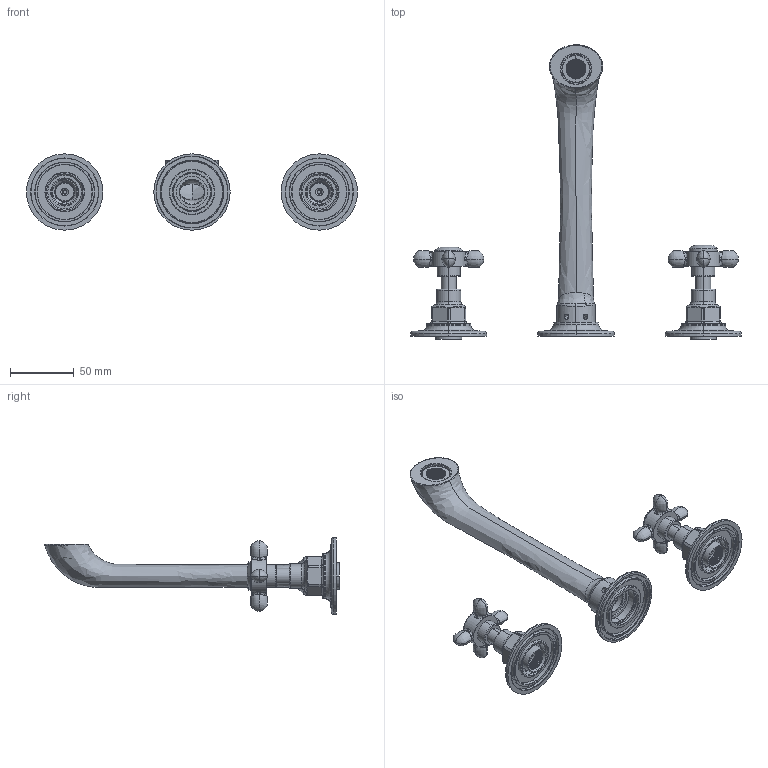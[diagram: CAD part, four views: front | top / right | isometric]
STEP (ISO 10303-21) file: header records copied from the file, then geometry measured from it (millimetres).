
FILE_DESCRIPTION(('FreeCAD Model'),'2;1');
FILE_NAME('Open CASCADE Shape Model','2025-05-28T19:17:32',('Author'),( ''),'Open CASCADE STEP processor 7.8','FreeCAD','Unknown');
FILE_SCHEMA(('AUTOMOTIVE_DESIGN { 1 0 10303 214 1 1 1 1 }'));
Length unit declared in the file: millimetre
Products named in the file (28): 1153047_ASM; 1153047-162_AF0; 1153047-552_AF0; 1153047-162_AF1; 1153003-113_AF0; 1153003-113_AF1; DP-9_5X5_3X1_5_AF2; DP-9_5X5_3X1_5_AF3; BT-M4X24_AF0; BT-M4X24_AF1; 1153003-573_AF0; 1153003-573_AF1; 1153003-552_AF0; 1153003-552_AF1; 1153003-202_AF0; 1153003-203_AF0; 1153021-022_AF1; 1153047-292_AF1; JQ-6X2_AF8; JQ-6X2_AF9; 8029020-404; 8029020-402; 8029020-403; JQ-10X2_AF0; JQ-10X2_AF1; 1153047-123_AF0; 1153047-552_AF1; 1153047-123_AF1
Assembly tree (27 placements, depth 3):
  1153047_ASM
    1153047-162_AF0
    1153047-552_AF0
    1153047-162_AF1
    1153003-113_AF0
    1153003-113_AF1
    DP-9_5X5_3X1_5_AF2
    DP-9_5X5_3X1_5_AF3
    BT-M4X24_AF0
    BT-M4X24_AF1
    1153003-573_AF0
    1153003-573_AF1
    1153003-552_AF0
    1153003-552_AF1
    1153003-202_AF0
    1153003-203_AF0
    1153021-022_AF1
    1153047-292_AF1
    JQ-6X2_AF8
    JQ-6X2_AF9
    8029020-404
      8029020-402
      8029020-403
    JQ-10X2_AF0
    JQ-10X2_AF1
    1153047-123_AF0
    1153047-552_AF1
    1153047-123_AF1
Bounding box: 260 x 231.2 x 60 mm (x, y, z)
Volume: 120728.5 mm3; surface area: 97491.8 mm2
Topology: 26 solids, 26 shells, 10184 faces, 25785 edges, 16386 vertices
Faces by surface type: plane 6017, cylinder 3608, bspline 278, cone 151, torus 126, sphere 4
Entity records: 355371 total; most frequent: CARTESIAN_POINT 107678, ORIENTED_EDGE 51498, DIRECTION 49264, EDGE_CURVE 25749, LINE 16610, VECTOR 16610, VERTEX_POINT 16386, AXIS2_PLACEMENT_3D 16327
